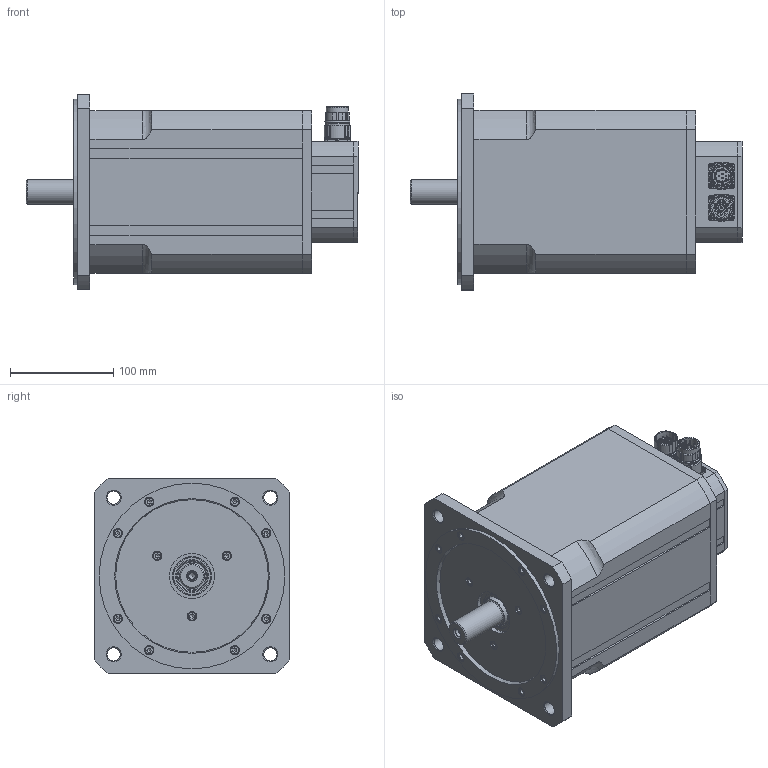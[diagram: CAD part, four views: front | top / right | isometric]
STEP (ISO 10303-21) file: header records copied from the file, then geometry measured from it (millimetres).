
FILE_DESCRIPTION(/* description */ (''),/* implementation_level */ '2;1');
FILE_NAME(/* name */ 'V:\6\N6025 00 B\3D Z\N6025 00 B Z_3000_8P_12P.stp',/* time_stamp */ '2017-06-28T12:02:05+02:00',/* author */ ('simik'),/* organization */ (''),/* preprocessor_version */ 'ST-DEVELOPER v16.13',/* originating_system */ 'Autodesk Inventor 2018',/* authorisation */ '');
FILE_SCHEMA (('AUTOMOTIVE_DESIGN { 1 0 10303 214 3 1 1 }'));
Products named in the file (5): N6025 00 B Z; N6025 00 B Z_front; N6025 00 B Z_3000; 127331; 127344
Assembly tree (4 placements, depth 2):
  N6025 00 B Z
    N6025 00 B Z_front
    N6025 00 B Z_3000
    127331
    127344
Bounding box: 322 x 190 x 190 mm (x, y, z)
Volume: 2183970.3 mm3; surface area: 444211.7 mm2
Topology: 7 solids, 38 shells, 2175 faces, 5223 edges, 3227 vertices
Faces by surface type: cylinder 862, plane 705, torus 209, cone 186, bspline 164, sphere 49
Full cylindrical faces by diameter (mm): 1 x16, 1.18 x12, 1.3 x4, 2 x4, 2.013 x8, 2.15 x4, 2.208 x8, 2.4 x8, 2.459 x10, 2.5 x8, 2.7 x8, 3 x4, 3.242 x5, 3.3 x4, 3.545 x4, 3.95 x4, 4 x4, 4.134 x16, 4.4 x4, 5 x27, 5.3 x19, 5.8 x1, 6.5 x4, 6.647 x1, 6.8 x1, 8 x4, 8.4 x1, 8.5 x23, 9 x19, 13 x4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
Entity records: 69536 total; most frequent: CARTESIAN_POINT 20280, DIRECTION 10167, ORIENTED_EDGE 9052, EDGE_CURVE 4434, AXIS2_PLACEMENT_3D 4356, VERTEX_POINT 2965, EDGE_LOOP 2903, ADVANCED_FACE 2171
